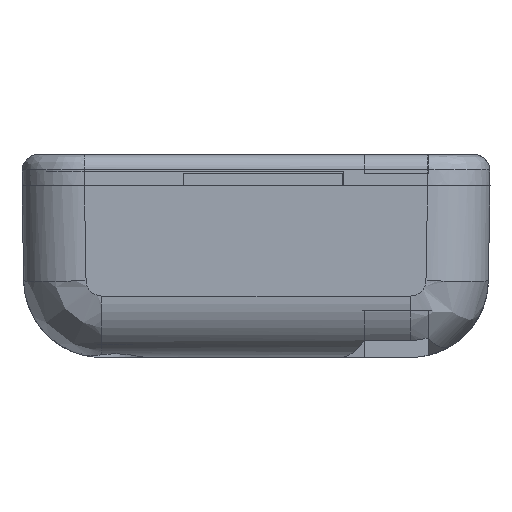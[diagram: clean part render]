
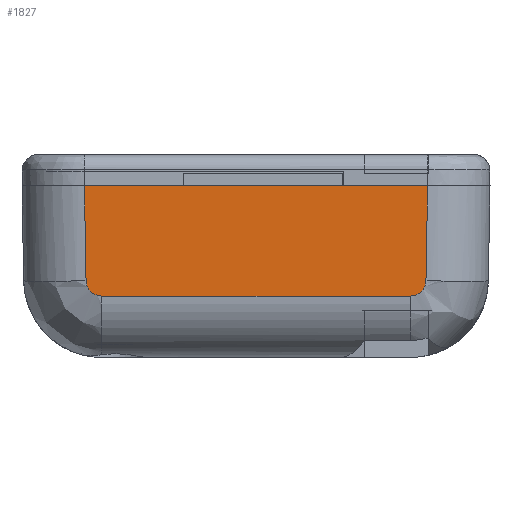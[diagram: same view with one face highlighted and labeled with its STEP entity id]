
A CAD part, front view. The second image highlights one B-rep face of the part: STEP entity #1827.
In plain terms, the highlighted planar face has unit normal (0, -1, -0.018).
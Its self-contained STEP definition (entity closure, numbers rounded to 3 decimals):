
#727=FACE_OUTER_BOUND('',#7635,.T.);
#1827=ADVANCED_FACE('',(#727),#2664,.F.);
#2664=PLANE('',#18423);
#3119=B_SPLINE_CURVE_WITH_KNOTS('',3,(#27570,#27571,#27572,#27573,#27574,
#27575,#27576,#27577,#27578),.UNSPECIFIED.,.F.,.F.,(4,1,1,1,1,1,4),(0.,
0.167,0.333,0.5,0.667,0.833,1.),
 .UNSPECIFIED.);
#3128=B_SPLINE_CURVE_WITH_KNOTS('',3,(#27954,#27955,#27956,#27957,#27958,
#27959,#27960,#27961,#27962,#27963),.UNSPECIFIED.,.F.,.F.,(4,1,1,1,1,1,
1,4),(0.,0.143,0.286,0.429,0.571,
0.714,0.857,1.),.UNSPECIFIED.);
#4149=LINE('',#27715,#5915);
#4236=LINE('',#28170,#6002);
#4237=LINE('',#28172,#6003);
#4238=LINE('',#28174,#6004);
#5915=VECTOR('',#21445,1.);
#6002=VECTOR('',#21636,1.);
#6003=VECTOR('',#21639,1.);
#6004=VECTOR('',#21640,1.);
#7635=EDGE_LOOP('',(#10814,#10815,#10816,#10817,#10818,#10819));
#10814=ORIENTED_EDGE('',*,*,#16340,.F.);
#10815=ORIENTED_EDGE('',*,*,#16341,.F.);
#10816=ORIENTED_EDGE('',*,*,#16342,.T.);
#10817=ORIENTED_EDGE('',*,*,#16276,.T.);
#10818=ORIENTED_EDGE('',*,*,#16217,.F.);
#10819=ORIENTED_EDGE('',*,*,#16212,.F.);
#14166=VERTEX_POINT('',#27569);
#14167=VERTEX_POINT('',#27579);
#14171=VERTEX_POINT('',#27716);
#14214=VERTEX_POINT('',#27964);
#14252=VERTEX_POINT('',#28169);
#14253=VERTEX_POINT('',#28173);
#16212=EDGE_CURVE('',#14166,#14167,#3119,.T.);
#16217=EDGE_CURVE('',#14167,#14171,#4149,.T.);
#16276=EDGE_CURVE('',#14214,#14171,#3128,.T.);
#16340=EDGE_CURVE('',#14252,#14166,#4236,.T.);
#16341=EDGE_CURVE('',#14253,#14252,#4237,.T.);
#16342=EDGE_CURVE('',#14253,#14214,#4238,.T.);
#18423=AXIS2_PLACEMENT_3D('',#28175,#21641,#21642);
#21445=DIRECTION('',(-1.,0.,0.));
#21636=DIRECTION('',(-0.017,0.017,-1.));
#21639=DIRECTION('',(1.,0.,0.));
#21640=DIRECTION('',(0.017,0.017,-1.));
#21641=DIRECTION('',(0.,1.,0.017));
#21642=DIRECTION('',(-1.,0.,0.));
#27569=CARTESIAN_POINT('',(-589.106,-279.894,-8.087));
#27570=CARTESIAN_POINT('',(-589.106,-279.894,-8.087));
#27571=CARTESIAN_POINT('',(-589.107,-279.892,-8.175));
#27572=CARTESIAN_POINT('',(-589.132,-279.889,-8.343));
#27573=CARTESIAN_POINT('',(-589.235,-279.885,-8.585));
#27574=CARTESIAN_POINT('',(-589.397,-279.881,-8.791));
#27575=CARTESIAN_POINT('',(-589.605,-279.879,-8.949));
#27576=CARTESIAN_POINT('',(-589.849,-279.877,-9.048));
#27577=CARTESIAN_POINT('',(-590.018,-279.877,-9.07));
#27578=CARTESIAN_POINT('',(-590.105,-279.877,-9.07));
#27579=CARTESIAN_POINT('',(-590.105,-279.877,-9.07));
#27715=CARTESIAN_POINT('',(-590.105,-279.877,-9.07));
#27716=CARTESIAN_POINT('',(-609.895,-279.877,-9.07));
#27954=CARTESIAN_POINT('',(-610.894,-279.894,-8.087));
#27955=CARTESIAN_POINT('',(-610.893,-279.892,-8.165));
#27956=CARTESIAN_POINT('',(-610.873,-279.89,-8.314));
#27957=CARTESIAN_POINT('',(-610.796,-279.886,-8.52));
#27958=CARTESIAN_POINT('',(-610.677,-279.883,-8.706));
#27959=CARTESIAN_POINT('',(-610.519,-279.88,-8.862));
#27960=CARTESIAN_POINT('',(-610.331,-279.878,-8.978));
#27961=CARTESIAN_POINT('',(-610.123,-279.877,-9.052));
#27962=CARTESIAN_POINT('',(-609.973,-279.877,-9.07));
#27963=CARTESIAN_POINT('',(-609.895,-279.877,-9.07));
#27964=CARTESIAN_POINT('',(-610.894,-279.894,-8.087));
#28169=CARTESIAN_POINT('',(-588.999,-280.,-2.));
#28170=CARTESIAN_POINT('',(-588.999,-280.,-2.));
#28172=CARTESIAN_POINT('',(-611.001,-280.,-2.));
#28173=CARTESIAN_POINT('',(-611.001,-280.,-2.));
#28174=CARTESIAN_POINT('',(-611.001,-280.,-2.));
#28175=CARTESIAN_POINT('',(-581.415,-280.,-2.));
